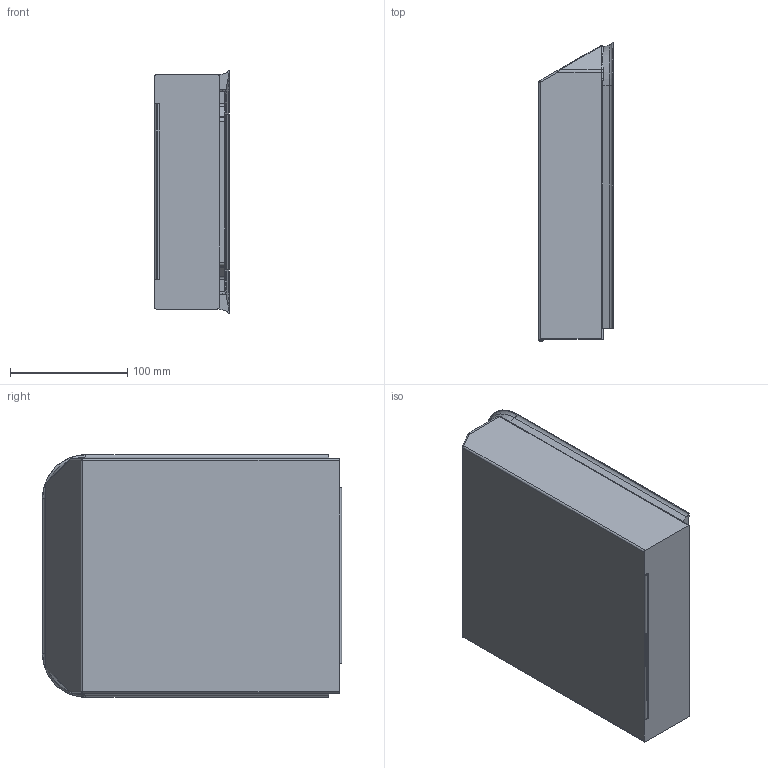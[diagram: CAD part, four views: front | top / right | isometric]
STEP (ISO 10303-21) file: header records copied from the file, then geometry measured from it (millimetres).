
FILE_DESCRIPTION (( 'STEP AP214' ), '1' );
FILE_NAME ('MRH12.STEP', '2025-01-29T09:05:47', ( '' ), ( '' ), 'SwSTEP 2.0', 'SolidWorks 2022', '' );
FILE_SCHEMA (( 'AUTOMOTIVE_DESIGN' ));
Length unit declared in the file: millimetre
Products named in the file (4): DT-04464DSI_semplificata; DT-04463DSI_Centraggio; MRH12; DT-04469DSI_FF12 semplificata
Assembly tree (3 placements, depth 2):
  MRH12
    DT-04463DSI_Centraggio
    DT-04464DSI_semplificata
    DT-04469DSI_FF12 semplificata
Bounding box: 63.6 x 255.07 x 207.14 mm (x, y, z)
Volume: 2741048.1 mm3; surface area: 214767.8 mm2
Topology: 3 solids, 3 shells, 142 faces, 360 edges, 221 vertices
Faces by surface type: cylinder 60, plane 56, torus 14, cone 8, bspline 2, sphere 2
Entity records: 4546 total; most frequent: CARTESIAN_POINT 803, DIRECTION 773, ORIENTED_EDGE 716, EDGE_CURVE 358, AXIS2_PLACEMENT_3D 281, VERTEX_POINT 221, VECTOR 211, LINE 211
